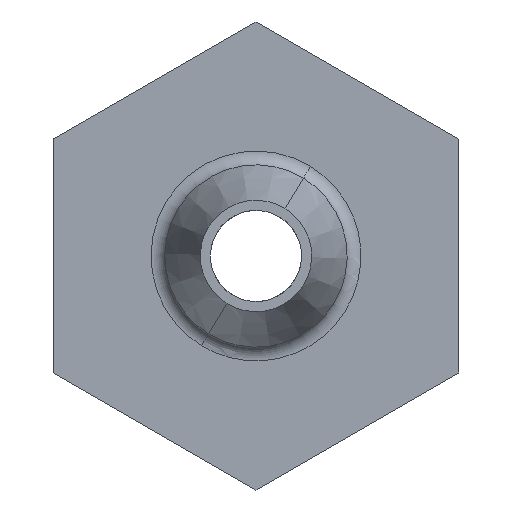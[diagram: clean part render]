
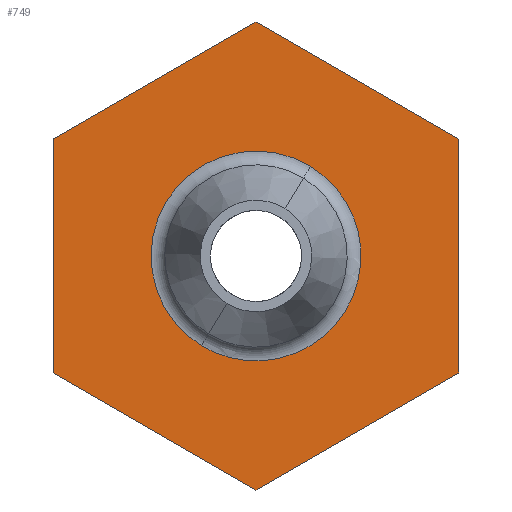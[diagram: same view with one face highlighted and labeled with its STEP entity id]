
A CAD part, left-side view. The second image highlights one B-rep face of the part: STEP entity #749.
In plain terms, the highlighted planar face has unit normal (-1, 0, 0).
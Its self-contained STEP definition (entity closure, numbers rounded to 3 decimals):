
#706=AXIS2_PLACEMENT_3D('Plane Axis2P3D',#703,#704,#705) ;
#742=AXIS2_PLACEMENT_3D('Circle Axis2P3D',#740,#741,$) ;
#480=CARTESIAN_POINT('Vertex',(-41.481,4.,-59.301)) ;
#483=CARTESIAN_POINT('Line Origine',(-41.481,2.,-58.146)) ;
#487=CARTESIAN_POINT('Vertex',(-41.481,0.,-56.991)) ;
#507=CARTESIAN_POINT('Line Origine',(-41.481,-2.,-58.146)) ;
#511=CARTESIAN_POINT('Vertex',(-41.481,-4.,-59.301)) ;
#531=CARTESIAN_POINT('Line Origine',(-41.481,-4.,-61.61)) ;
#535=CARTESIAN_POINT('Vertex',(-41.481,-4.,-63.919)) ;
#555=CARTESIAN_POINT('Line Origine',(-41.481,-2.,-65.074)) ;
#559=CARTESIAN_POINT('Vertex',(-41.481,0.,-66.229)) ;
#579=CARTESIAN_POINT('Line Origine',(-41.481,2.,-65.074)) ;
#583=CARTESIAN_POINT('Vertex',(-41.481,4.,-63.919)) ;
#603=CARTESIAN_POINT('Line Origine',(-41.481,4.,-61.61)) ;
#703=CARTESIAN_POINT('Axis2P3D Location',(-41.481,0.,-61.61)) ;
#717=CARTESIAN_POINT('Control Point',(-41.481,-1.078,-59.841)) ;
#718=CARTESIAN_POINT('Control Point',(-41.481,-1.283,-59.966)) ;
#719=CARTESIAN_POINT('Control Point',(-41.481,-1.471,-60.121)) ;
#720=CARTESIAN_POINT('Control Point',(-41.481,-1.634,-60.303)) ;
#721=CARTESIAN_POINT('Control Point',(-41.481,-1.922,-60.736)) ;
#722=CARTESIAN_POINT('Control Point',(-41.481,-2.066,-61.238)) ;
#723=CARTESIAN_POINT('Control Point',(-41.481,-2.097,-61.516)) ;
#724=CARTESIAN_POINT('Control Point',(-41.481,-2.065,-62.092)) ;
#725=CARTESIAN_POINT('Control Point',(-41.481,-1.842,-62.625)) ;
#726=CARTESIAN_POINT('Control Point',(-41.481,-1.679,-62.877)) ;
#727=CARTESIAN_POINT('Control Point',(-41.481,-1.249,-63.335)) ;
#728=CARTESIAN_POINT('Control Point',(-41.481,-0.68,-63.607)) ;
#729=CARTESIAN_POINT('Control Point',(-41.481,-0.358,-63.69)) ;
#730=CARTESIAN_POINT('Control Point',(-41.481,0.143,-63.715)) ;
#731=CARTESIAN_POINT('Control Point',(-41.481,0.623,-63.596)) ;
#732=CARTESIAN_POINT('Control Point',(-41.481,0.782,-63.539)) ;
#733=CARTESIAN_POINT('Control Point',(-41.481,0.935,-63.466)) ;
#734=CARTESIAN_POINT('Control Point',(-41.481,1.078,-63.379)) ;
#735=CARTESIAN_POINT('Vertex',(-41.481,-1.078,-59.841)) ;
#737=CARTESIAN_POINT('Vertex',(-41.481,1.078,-63.379)) ;
#740=CARTESIAN_POINT('Axis2P3D Location',(-41.481,0.,-61.61)) ;
#484=DIRECTION('Vector Direction',(0.,0.866,-0.5)) ;
#508=DIRECTION('Vector Direction',(0.,0.866,0.5)) ;
#532=DIRECTION('Vector Direction',(0.,0.,1.)) ;
#556=DIRECTION('Vector Direction',(0.,-0.866,0.5)) ;
#580=DIRECTION('Vector Direction',(0.,-0.866,-0.5)) ;
#604=DIRECTION('Vector Direction',(0.,0.,-1.)) ;
#704=DIRECTION('Axis2P3D Direction',(1.,0.,0.)) ;
#705=DIRECTION('Axis2P3D XDirection',(0.,-1.,0.)) ;
#741=DIRECTION('Axis2P3D Direction',(1.,0.,0.)) ;
#485=VECTOR('Line Direction',#484,1.) ;
#509=VECTOR('Line Direction',#508,1.) ;
#533=VECTOR('Line Direction',#532,1.) ;
#557=VECTOR('Line Direction',#556,1.) ;
#581=VECTOR('Line Direction',#580,1.) ;
#605=VECTOR('Line Direction',#604,1.) ;
#709=ORIENTED_EDGE('',*,*,#489,.T.) ;
#710=ORIENTED_EDGE('',*,*,#607,.T.) ;
#711=ORIENTED_EDGE('',*,*,#585,.T.) ;
#712=ORIENTED_EDGE('',*,*,#561,.T.) ;
#713=ORIENTED_EDGE('',*,*,#537,.T.) ;
#714=ORIENTED_EDGE('',*,*,#513,.T.) ;
#746=ORIENTED_EDGE('',*,*,#739,.T.) ;
#747=ORIENTED_EDGE('',*,*,#744,.T.) ;
#748=FACE_BOUND('',#745,.T.) ;
#749=ADVANCED_FACE('MANIFOLD_SOLID_BREP #461',(#715,#748),#707,.F.) ;
#716=B_SPLINE_CURVE_WITH_KNOTS('',5,(#717,#718,#719,#720,#721,#722,#723,#724,#725,#726,#727,#728,#729,#730,#731,#732,#733,#734),.UNSPECIFIED.,.F.,.U.,(6,3,3,3,3,6),(0.,1.538,3.293,5.174,7.248,8.32),.UNSPECIFIED.) ;
#743=CIRCLE('generated circle',#742,2.071) ;
#489=EDGE_CURVE('',#488,#481,#486,.T.) ;
#513=EDGE_CURVE('',#512,#488,#510,.T.) ;
#537=EDGE_CURVE('',#536,#512,#534,.T.) ;
#561=EDGE_CURVE('',#560,#536,#558,.T.) ;
#585=EDGE_CURVE('',#584,#560,#582,.T.) ;
#607=EDGE_CURVE('',#481,#584,#606,.T.) ;
#739=EDGE_CURVE('',#736,#738,#716,.T.) ;
#744=EDGE_CURVE('',#738,#736,#743,.T.) ;
#708=EDGE_LOOP('',(#709,#710,#711,#712,#713,#714)) ;
#745=EDGE_LOOP('',(#746,#747)) ;
#715=FACE_OUTER_BOUND('',#708,.T.) ;
#486=LINE('Line',#483,#485) ;
#510=LINE('Line',#507,#509) ;
#534=LINE('Line',#531,#533) ;
#558=LINE('Line',#555,#557) ;
#582=LINE('Line',#579,#581) ;
#606=LINE('Line',#603,#605) ;
#707=PLANE('Plane',#706) ;
#481=VERTEX_POINT('',#480) ;
#488=VERTEX_POINT('',#487) ;
#512=VERTEX_POINT('',#511) ;
#536=VERTEX_POINT('',#535) ;
#560=VERTEX_POINT('',#559) ;
#584=VERTEX_POINT('',#583) ;
#736=VERTEX_POINT('',#735) ;
#738=VERTEX_POINT('',#737) ;
